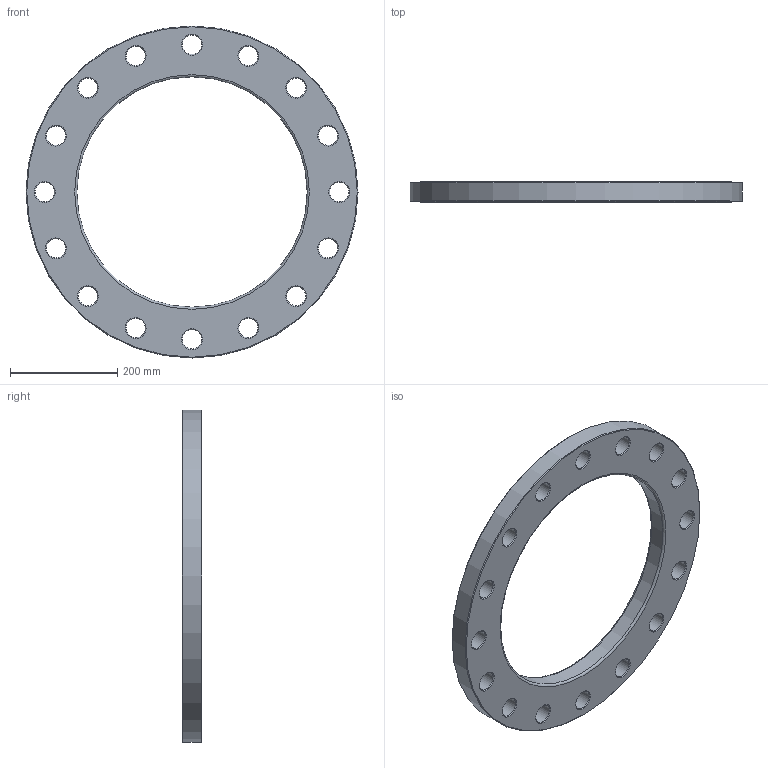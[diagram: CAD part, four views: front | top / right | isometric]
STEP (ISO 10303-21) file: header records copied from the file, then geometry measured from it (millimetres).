
FILE_DESCRIPTION(/* description */ ('Unknown'),/* implementation_level */ '2;1');
FILE_NAME(/* name */ 'FZ400H',/* time_stamp */ '2021-03-15T14:58:09+01:00',/* author */ ('Unknown'),/* organization */ ('Unknown'),/* preprocessor_version */ 'ST-DEVELOPER v16.7',/* originating_system */ 'Solid Edge',/* authorisation */ 'Unknown');
FILE_SCHEMA (('AUTOMOTIVE_DESIGN {1 0 10303 214 3 1 1}'));
Length unit declared in the file: millimetre
Products named in the file (1): FZ400H
Bounding box: 620 x 37 x 620 mm (x, y, z)
Volume: 5176958.5 mm3; surface area: 458667 mm2
Topology: 1 solids, 1 shells, 56 faces, 174 edges, 120 vertices
Faces by surface type: cone 34, cylinder 18, plane 2, torus 2
Full cylindrical faces by diameter (mm): 36 x16, 430 x1, 620 x1
Entity records: 1382 total; most frequent: DIRECTION 258, CARTESIAN_POINT 201, ORIENTED_EDGE 144, EDGE_LOOP 144, FACE_BOUND 144, AXIS2_PLACEMENT_3D 129, EDGE_CURVE 72, VERTEX_POINT 72
